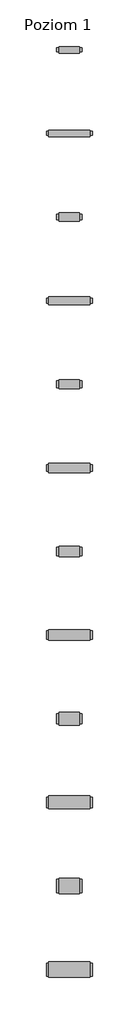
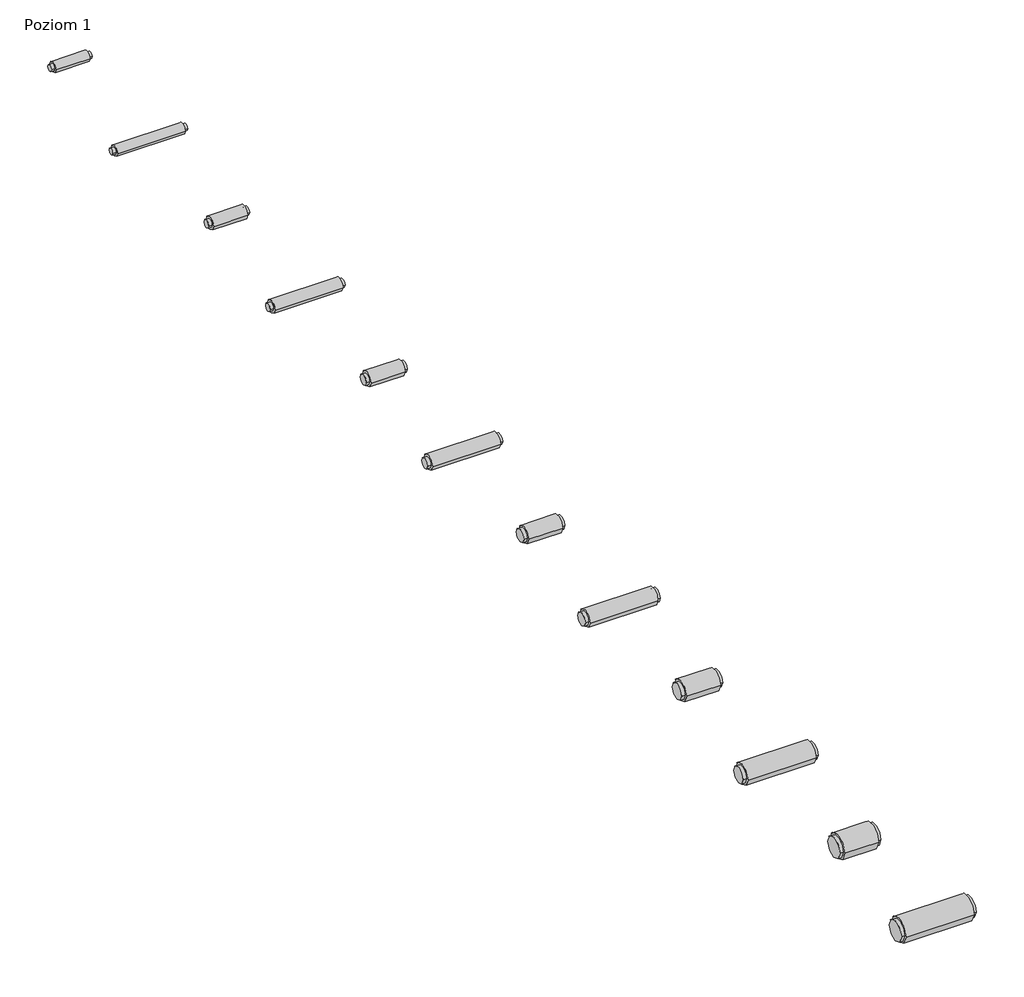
# One storey: 12 dampers.
"""IFC4 building model written with IfcOpenShell, lengths in millimetres."""

from ifc_helpers import new_model, si_unit, origin, place, context, project, spatial, transform, mapped, element, save
from components import damper_30ac830d, damper_e27ed887, damper_fdb4ce8a, damper_30e566fb, damper_8c45fced, damper_82dc4f44, damper_c859ab89, damper_5dbd74d1, damper_d7772320, damper_28a0ceff, damper_550c58bf, damper_bc44c6f4

model = new_model("IFC4")

# Units and contexts
model_context = context("Model", 3, world=origin())
ifc_project = project(units=[si_unit("LENGTHUNIT", "METRE", prefix="MILLI")], contexts=[model_context])

# Site, building, storey
site = spatial("IfcSite", under=ifc_project)
building = spatial("IfcBuilding", under=site)
storey = spatial("IfcBuildingStorey", under=building, Name="Poziom 1", Elevation=0.0)

# Dampers
placement = place(None, origin())
damper_shape = damper_30ac830d(model_context)
element("IfcDamper", 1, ObjectType="VE-Tłumik_Akustyczny-ParaForma-Harmann-FLEXITEC : 100-0500", at=placement, inside=storey, context=model_context, shape_type="MappedRepresentation", body=[
    mapped(damper_shape, transform((0.0, 4000.0, 0.0), x_axis=(1.0, 0.0, 0.0), y_axis=(0.0, 1.0, 0.0), z_axis=(0.0, 0.0, 1.0))),
])
damper_2_shape = damper_e27ed887(model_context)
element("IfcDamper", 2, ObjectType="VE-Tłumik_Akustyczny-ParaForma-Harmann-FLEXITEC : 100-1000", at=placement, inside=storey, context=model_context, shape_type="MappedRepresentation", body=[
    mapped(damper_2_shape, transform((0.0, 2000.0, 0.0), x_axis=(1.0, 0.0, 0.0), y_axis=(0.0, 1.0, 0.0), z_axis=(0.0, 0.0, 1.0))),
])
damper_3_shape = damper_fdb4ce8a(model_context)
element("IfcDamper", 3, ObjectType="VE-Tłumik_Akustyczny-ParaForma-Harmann-FLEXITEC : 125-0500", at=placement, inside=storey, context=model_context, shape_type="MappedRepresentation", body=[
    mapped(damper_3_shape, transform((0.0, 0.0, 0.0), x_axis=(1.0, 0.0, 0.0), y_axis=(0.0, 1.0, 0.0), z_axis=(0.0, 0.0, 1.0))),
])
damper_4_shape = damper_30e566fb(model_context)
element("IfcDamper", 4, ObjectType="VE-Tłumik_Akustyczny-ParaForma-Harmann-FLEXITEC : 125-1000", at=placement, inside=storey, context=model_context, shape_type="MappedRepresentation", body=[
    mapped(damper_4_shape, transform((0.0, -2000.0, 0.0), x_axis=(1.0, 0.0, 0.0), y_axis=(0.0, 1.0, 0.0), z_axis=(0.0, 0.0, 1.0))),
])
damper_5_shape = damper_8c45fced(model_context)
element("IfcDamper", 5, ObjectType="VE-Tłumik_Akustyczny-ParaForma-Harmann-FLEXITEC : 160-0500", at=placement, inside=storey, context=model_context, shape_type="MappedRepresentation", body=[
    mapped(damper_5_shape, transform((0.0, -4000.0, 0.0), x_axis=(1.0, 0.0, 0.0), y_axis=(0.0, 1.0, 0.0), z_axis=(0.0, 0.0, 1.0))),
])
damper_6_shape = damper_82dc4f44(model_context)
element("IfcDamper", 6, ObjectType="VE-Tłumik_Akustyczny-ParaForma-Harmann-FLEXITEC : 160-1000", at=placement, inside=storey, context=model_context, shape_type="MappedRepresentation", body=[
    mapped(damper_6_shape, transform((0.0, -6000.0, 0.0), x_axis=(1.0, 0.0, 0.0), y_axis=(0.0, 1.0, 0.0), z_axis=(0.0, 0.0, 1.0))),
])
damper_7_shape = damper_c859ab89(model_context)
element("IfcDamper", 7, ObjectType="VE-Tłumik_Akustyczny-ParaForma-Harmann-FLEXITEC : 200-0500", at=placement, inside=storey, context=model_context, shape_type="MappedRepresentation", body=[
    mapped(damper_7_shape, transform((0.0, -8000.0, 0.0), x_axis=(1.0, 0.0, 0.0), y_axis=(0.0, 1.0, 0.0), z_axis=(0.0, 0.0, 1.0))),
])
damper_8_shape = damper_5dbd74d1(model_context)
element("IfcDamper", 8, ObjectType="VE-Tłumik_Akustyczny-ParaForma-Harmann-FLEXITEC : 200-1000", at=placement, inside=storey, context=model_context, shape_type="MappedRepresentation", body=[
    mapped(damper_8_shape, transform((0.0, -10000.0, 0.0), x_axis=(1.0, 0.0, 0.0), y_axis=(0.0, 1.0, 0.0), z_axis=(0.0, 0.0, 1.0))),
])
damper_9_shape = damper_d7772320(model_context)
element("IfcDamper", 9, ObjectType="VE-Tłumik_Akustyczny-ParaForma-Harmann-FLEXITEC : 250-0500", at=placement, inside=storey, context=model_context, shape_type="MappedRepresentation", body=[
    mapped(damper_9_shape, transform((0.0, -12000.0, 0.0), x_axis=(1.0, 0.0, 0.0), y_axis=(0.0, 1.0, 0.0), z_axis=(0.0, 0.0, 1.0))),
])
damper_10_shape = damper_28a0ceff(model_context)
element("IfcDamper", 10, ObjectType="VE-Tłumik_Akustyczny-ParaForma-Harmann-FLEXITEC : 250-1000", at=placement, inside=storey, context=model_context, shape_type="MappedRepresentation", body=[
    mapped(damper_10_shape, transform((0.0, -14000.0, 0.0), x_axis=(1.0, 0.0, 0.0), y_axis=(0.0, 1.0, 0.0), z_axis=(0.0, 0.0, 1.0))),
])
damper_11_shape = damper_550c58bf(model_context)
element("IfcDamper", 11, ObjectType="VE-Tłumik_Akustyczny-ParaForma-Harmann-FLEXITEC : 315-0500", at=placement, inside=storey, context=model_context, shape_type="MappedRepresentation", body=[
    mapped(damper_11_shape, transform((0.0, -16000.0, 0.0), x_axis=(1.0, 0.0, 0.0), y_axis=(0.0, 1.0, 0.0), z_axis=(0.0, 0.0, 1.0))),
])
damper_12_shape = damper_bc44c6f4(model_context)
element("IfcDamper", 12, ObjectType="VE-Tłumik_Akustyczny-ParaForma-Harmann-FLEXITEC : 315-1000", at=placement, inside=storey, context=model_context, shape_type="MappedRepresentation", body=[
    mapped(damper_12_shape, transform((0.0, -18000.0, 0.0), x_axis=(1.0, 0.0, 0.0), y_axis=(0.0, 1.0, 0.0), z_axis=(0.0, 0.0, 1.0))),
])

save(model, "model.ifc")
